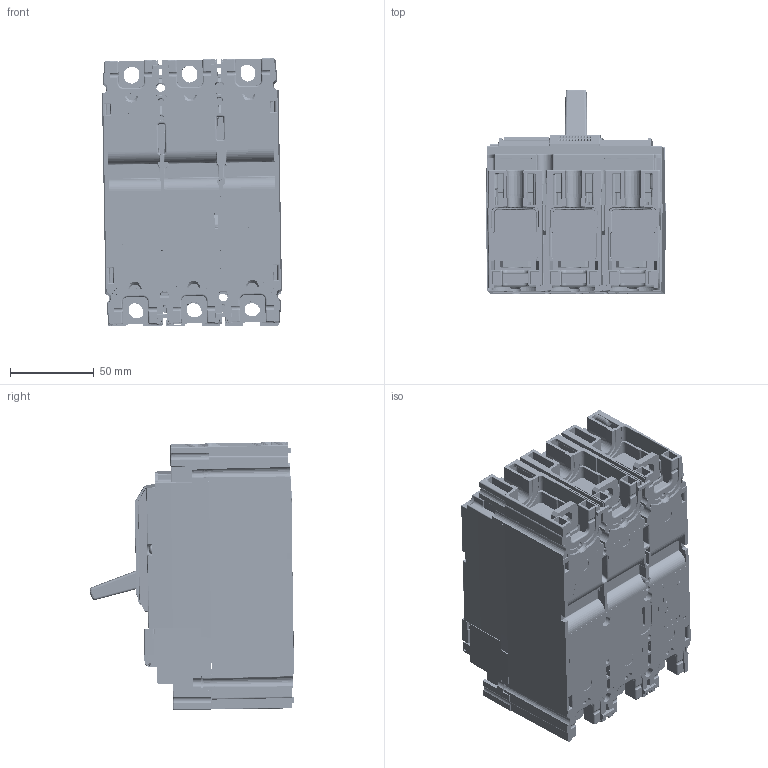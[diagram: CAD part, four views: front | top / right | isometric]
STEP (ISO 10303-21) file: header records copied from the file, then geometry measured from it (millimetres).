
FILE_DESCRIPTION(('STEP AP242'), '1');
FILE_NAME('ÂÀ11-02 ñòàö. èñï.', '', ('UNSPECIFIED'), ('UNSPECIFIED'), 'C3D Converter', 'C3D Toolkit', '');
FILE_SCHEMA(('AP242_MANAGED_MODEL_BASED_3D_ENGINEERING_MIM_LF { 1 0 10303 442 1 1 4 }'));
Length unit declared in the file: millimetre
Bounding box: 107.37 x 121.95 x 159.6 mm (x, y, z)
Volume: 237626.9 mm3; surface area: 235344.4 mm2
Topology: 2 solids, 2 shells, 11034 faces, 27596 edges, 16791 vertices
Faces by surface type: cylinder 4380, plane 4161, bspline 2112, torus 128, cone 108, extrusion 77, sphere 68
Full cylindrical faces by diameter (mm): 1.5 x2, 1.6 x2, 1.8 x2, 2.3 x8, 2.4 x1, 2.5 x4, 2.6 x2, 2.8 x2, 2.9 x2, 3 x12, 3.25 x2, 3.3 x3, 3.4 x1, 3.5 x5, 3.6 x1, 3.7 x2, 4.5 x3, 4.8 x1, 4.9 x1, 5.3 x1, 5.5 x3, 5.6 x2, 5.9 x1, 6.1 x2, 6.3 x2, 7 x3, 7.2 x1, 7.9 x6, 8.5 x2, 9 x2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
Entity records: 664614 total; most frequent: CARTESIAN_POINT 333567, ORIENTED_EDGE 54934, DIRECTION 44091, EDGE_CURVE 27467, VERTEX_POINT 16788, VECTOR 15085, LINE 15008, AXIS2_PLACEMENT_3D 14503
